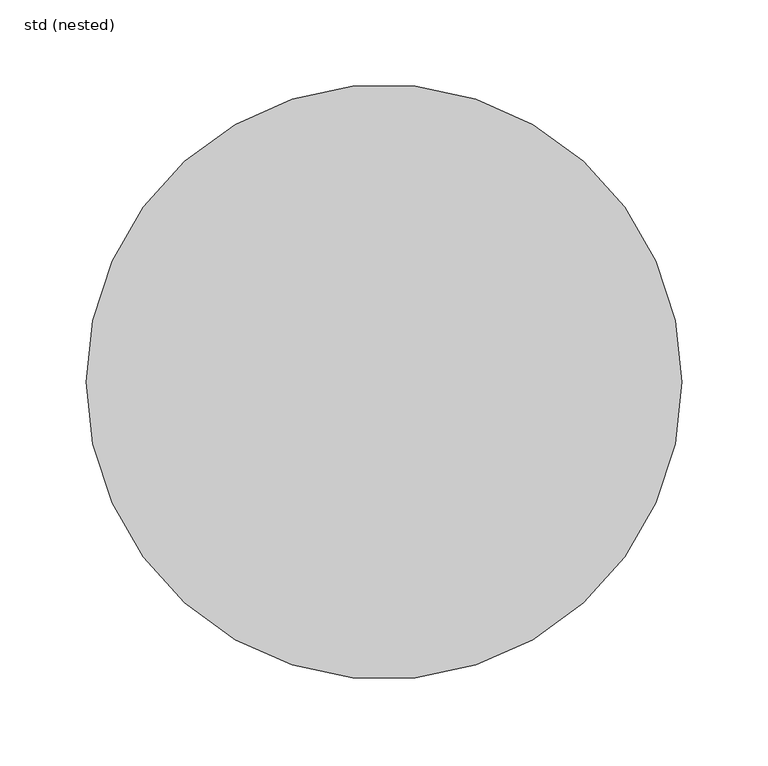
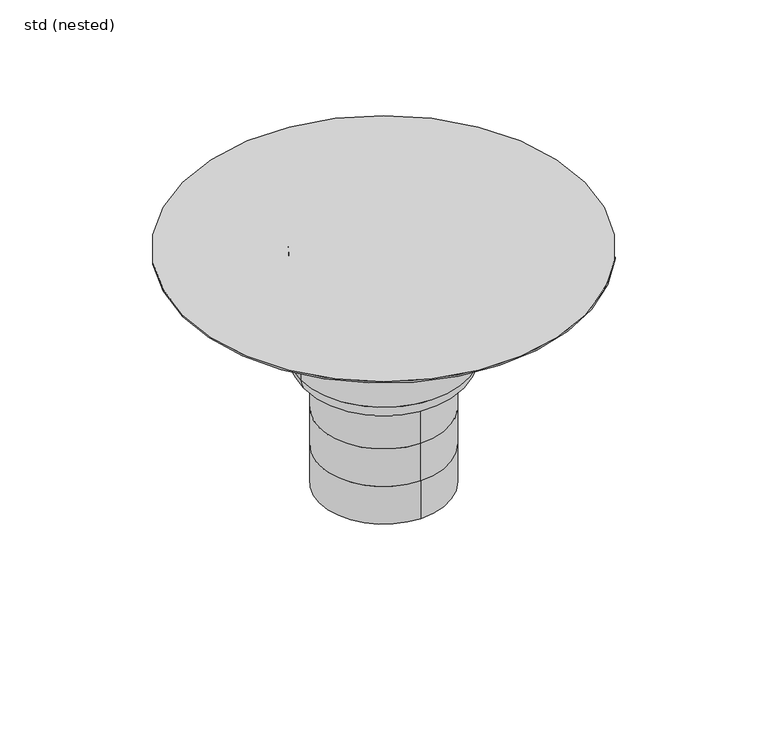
"""IFC4 building model written with IfcOpenShell, lengths in millimetres: sanitary terminal geometry, ZZZ_do not use_PF_ST_UN_telescopic hygienic gully_ACO : std (nested)."""

from ifc_helpers import new_model, si_unit, point, frame, origin, origin_with_axes, place, context, project, spatial, circle_curve, ellipse_curve, trimmed, source, transform, mapped, element, save
from ifc_brep_helpers import plane_surface, cylinder_surface, revolved_surface, advanced_brep


def std_nested_e0442021(model_context):
    return source(origin(), model_context, "Body", "AdvancedBrep", [
        advanced_brep(
        [(0.0, -55.0, -211.0), (0.0, 55.0, -211.0), (0.0, -55.0, -177.0), (0.0, 55.0, -177.0), (0.0, -55.0, -143.0), (0.0, 55.0, -143.0), (0.0, 55.0, -109.0), (55.0, 0.0, -109.0), (0.0, -55.0, -109.0), (-55.0, 0.0, -109.0), (71.0, 0.0, -94.0), (-71.0, 0.0, -94.0), (-71.0, 0.0, -1.5), (71.0, 0.0, -1.5), (56.0, 0.0, -109.0), (-56.0, 0.0, -109.0), (-172.0, 0.0, -1.5), (172.0, 0.0, -1.5), (-172.0, 0.0, 0.0), (172.0, 0.0, 0.0)],
        [
            (0, 1, circle_curve(frame((0.0, 0.0, -211.0), z_axis=(0.0, 0.0, -1.0), x_axis=(0.0, 1.0, 0.0)), 55.0)),
            (1, 0, circle_curve(frame((0.0, 0.0, -211.0), z_axis=(0.0, 0.0, -1.0), x_axis=(0.0, 1.0, 0.0)), 55.0)),
            (0, 2),
            (2, 3, circle_curve(frame((0.0, 0.0, -177.0), z_axis=(0.0, 0.0, -1.0), x_axis=(0.0, 1.0, 0.0)), 55.0)),
            (3, 1),
            (3, 2, circle_curve(frame((0.0, 0.0, -177.0), z_axis=(0.0, 0.0, -1.0), x_axis=(0.0, 1.0, 0.0)), 55.0)),
            (4, 2),
            (3, 5),
            (5, 4, circle_curve(frame((0.0, 0.0, -143.0), z_axis=(0.0, 0.0, -1.0), x_axis=(1.0, 0.0, 0.0)), 55.0)),
            (4, 5, circle_curve(frame((0.0, 0.0, -143.0), z_axis=(0.0, 0.0, -1.0), x_axis=(-1.0, 0.0, 0.0)), 55.0)),
            (5, 6),
            (6, 7, circle_curve(frame((0.0, 0.0, -109.0), z_axis=(0.0, 0.0, -1.0), x_axis=(0.0, 1.0, 0.0)), 55.0)),
            (7, 8, circle_curve(frame((0.0, 0.0, -109.0), z_axis=(0.0, 0.0, -1.0), x_axis=(0.0, 1.0, 0.0)), 55.0)),
            (8, 4),
            (8, 9, circle_curve(frame((0.0, 0.0, -109.0), z_axis=(0.0, 0.0, -1.0), x_axis=(0.0, 1.0, 0.0)), 55.0)),
            (9, 6, circle_curve(frame((0.0, 0.0, -109.0), z_axis=(0.0, 0.0, -1.0), x_axis=(0.0, 1.0, 0.0)), 55.0)),
            (10, 11, circle_curve(frame((0.0, 0.0, -94.0), z_axis=(0.0, 0.0, 1.0), x_axis=(-1.0, 0.0, 0.0)), 71.0)),
            (11, 12),
            (12, 13, circle_curve(frame((0.0, 0.0, -1.5), z_axis=(0.0, 0.0, -1.0), x_axis=(-1.0, 0.0, 0.0)), 71.0)),
            (13, 10),
            (11, 10, circle_curve(frame((0.0, 0.0, -94.0), z_axis=(0.0, 0.0, 1.0), x_axis=(-1.0, 0.0, 0.0)), 71.0)),
            (13, 12, circle_curve(frame((0.0, 0.0, -1.5), z_axis=(0.0, 0.0, -1.0), x_axis=(-1.0, 0.0, 0.0)), 71.0)),
            (10, 14, circle_curve(frame((56.0, 0.0, -94.0), z_axis=(0.0, 1.0, 0.0), x_axis=(-1.0, 0.0, 0.0)), 15.0)),
            (14, 15, circle_curve(frame((0.0, 0.0, -109.0), z_axis=(0.0, 0.0, 1.0), x_axis=(-1.0, 0.0, 0.0)), 56.0)),
            (15, 11, circle_curve(frame((-56.0, 0.0, -94.0), z_axis=(0.0, 1.0, 0.0), x_axis=(1.0, 0.0, 0.0)), 15.0)),
            (15, 14, circle_curve(frame((0.0, 0.0, -109.0), z_axis=(0.0, 0.0, 1.0), x_axis=(-1.0, 0.0, 0.0)), 56.0)),
            (14, 7),
            (9, 15),
            (16, 17, circle_curve(frame((0.0, 0.0, -1.5), z_axis=(0.0, 0.0, -1.0), x_axis=(1.0, 0.0, 0.0)), 172.0)),
            (17, 16, circle_curve(frame((0.0, 0.0, -1.5), z_axis=(0.0, 0.0, -1.0), x_axis=(1.0, 0.0, 0.0)), 172.0)),
            (18, 19, circle_curve(origin_with_axes(), 172.0)),
            (19, 18, circle_curve(origin_with_axes(), 172.0)),
            (17, 19),
            (18, 16),
        ],
        [
            plane_surface(frame((0.0, 55.0, -211.0), z_axis=(0.0, 0.0, -1.0), x_axis=(1.0, 0.0, 0.0))),
            cylinder_surface(frame((0.0, 0.0, -177.0), z_axis=(0.0, 0.0, -1.0), x_axis=(0.0, 1.0, 0.0)), 55.0),
            cylinder_surface(frame((0.0, 0.0, -143.0), z_axis=(0.0, 0.0, -1.0), x_axis=(1.0, 0.0, 0.0)), 55.0),
            cylinder_surface(frame((0.0, 0.0, -143.0), z_axis=(0.0, 0.0, -1.0), x_axis=(-1.0, 0.0, 0.0)), 55.0),
            cylinder_surface(frame((0.0, 0.0, -109.0), z_axis=(0.0, 0.0, -1.0), x_axis=(0.0, 1.0, 0.0)), 55.0),
            cylinder_surface(frame((0.0, 0.0, 60.0), z_axis=(0.0, 0.0, -1.0), x_axis=(-1.0, 0.0, 0.0)), 71.0),
            revolved_surface(trimmed(ellipse_curve(frame((-56.0, 0.0, -94.0), z_axis=(0.0, -1.0, 0.0), x_axis=(1.0, 0.0, 0.0)), 15.0, 15.0), [point((-71.0, 0.0, -94.0))], [point((-56.0, 0.0, -109.0))], True, "CARTESIAN"), (0.0, 0.0, 60.0), (0.0, 0.0, -1.0)),
            plane_surface(frame((0.0, 0.0, -109.0), z_axis=(0.0, 0.0, -1.0), x_axis=(-1.0, 0.0, 0.0))),
            plane_surface(frame((172.0, 0.0, -1.5), z_axis=(0.0, 0.0, -1.0), x_axis=(0.0, -1.0, 0.0))),
            plane_surface(frame((172.0, 0.0, 0.0), z_axis=(0.0, 0.0, 1.0), x_axis=(0.0, 1.0, 0.0))),
            cylinder_surface(frame((0.0, 0.0, -1.5), z_axis=(0.0, 0.0, 1.0), x_axis=(1.0, 0.0, 0.0)), 172.0),
        ],
        [
            (0, [[1, 2]]),
            (1, [[-1, 3, 4, 5]]),
            (1, [[-2, -5, 6, -3]]),
            (2, [[7, -6, 8, 9]]),
            (3, [[-7, 10, -8, -4]]),
            (4, [[11, 12, 13, 14, -9]]),
            (4, [[-11, -10, -14, 15, 16]]),
            (5, [[17, 18, 19, 20]]),
            (5, [[-18, 21, -20, 22]]),
            (6, [[-17, 23, 24, 25]]),
            (6, [[-21, -25, 26, -23]]),
            (7, [[-24, 27, -12, -16, 28]]),
            (7, [[-26, -28, -15, -13, -27]]),
            (8, [[29, 30], [-19, -22]]),
            (9, [[31, 32]]),
            (10, [[-30, 33, -31, 34]]),
            (10, [[-29, -34, -32, -33]]),
        ],
    ),
    ])


if __name__ == "__main__":
    model = new_model("IFC4")
    model_context = context("Model", 3, world=origin())
    ifc_project = project(units=[si_unit("LENGTHUNIT", "METRE", prefix="MILLI")], contexts=[model_context])
    site = spatial("IfcSite", under=ifc_project)
    building = spatial("IfcBuilding", under=site)
    placement = place(None, origin())
    std_nested_shape = std_nested_e0442021(model_context)
    element("IfcSanitaryTerminal", 1, ObjectType="ZZZ_do not use_PF_ST_UN_telescopic hygienic gully_ACO : std (nested)", at=placement, inside=building, context=model_context, shape_type="MappedRepresentation", body=[
        mapped(std_nested_shape, transform((0.0, 0.0, 0.0), x_axis=(1.0, 0.0, 0.0), y_axis=(0.0, 1.0, 0.0), z_axis=(0.0, 0.0, 1.0))),
    ])
    save(model, "model.ifc")
